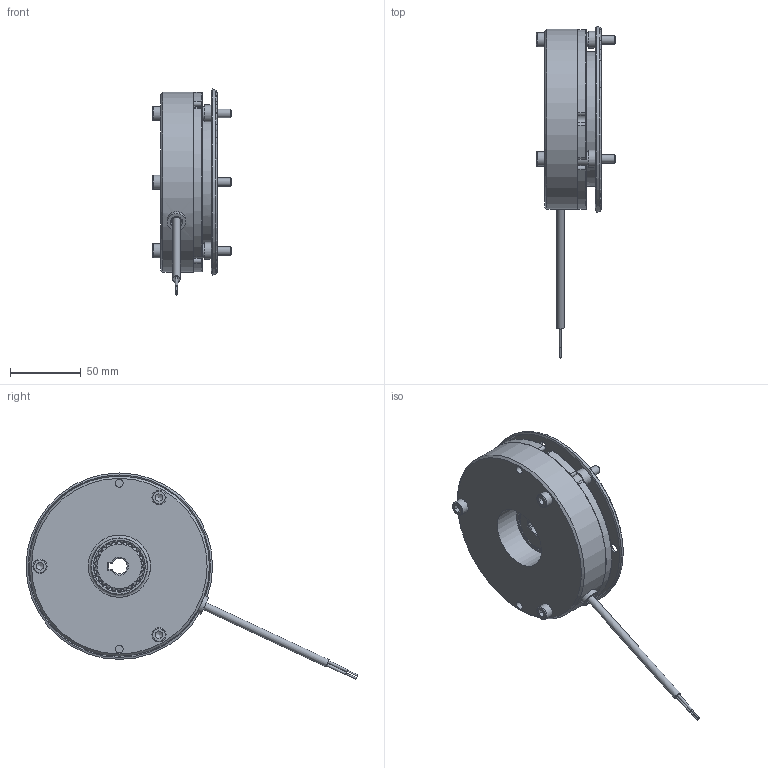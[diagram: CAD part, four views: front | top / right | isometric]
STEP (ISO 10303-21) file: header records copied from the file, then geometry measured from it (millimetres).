
FILE_DESCRIPTION(/* description */ (''),/* implementation_level */ '2;1');
FILE_NAME(/* name */ 'C:\SapWorkDir\Inventor\IP1\ConvertTempPath\5029484_IPT_000.ipt.stp',/* time_stamp */ '2021-04-21T07:47:45+02:00',/* author */ ('WOELK'),/* organization */ (''),/* preprocessor_version */ 'ST-DEVELOPER v17',/* originating_system */ 'Autodesk Inventor 2018',/* authorisation */ '');
FILE_SCHEMA (('AUTOMOTIVE_DESIGN { 1 0 10303 214 3 1 1 }'));
Products named in the file (1): 5029484
Bounding box: 56 x 234.25 x 145.5 mm (x, y, z)
Volume: 409753.7 mm3; surface area: 107493.3 mm2
Topology: 2 solids, 2 shells, 1837 faces, 5558 edges, 3584 vertices
Faces by surface type: cylinder 827, plane 367, bspline 313, torus 244, cone 86
Full cylindrical faces by diameter (mm): 1 x2, 1.85 x2, 5 x1, 5.3 x1, 5.5 x3, 6 x3, 6.15 x3, 6.4 x3, 6.6 x7, 8.917 x3, 10 x6, 10.4 x3, 12 x3, 13.2 x1, 38.3 x1, 44 x2, 52 x1, 65.7 x2, 66.1 x2, 95 x1, 127 x1
Entity records: 77000 total; most frequent: CARTESIAN_POINT 26999, ORIENTED_EDGE 11112, DIRECTION 9347, EDGE_CURVE 5556, AXIS2_PLACEMENT_3D 3817, VERTEX_POINT 3584, CIRCLE 2292, EDGE_LOOP 1908
